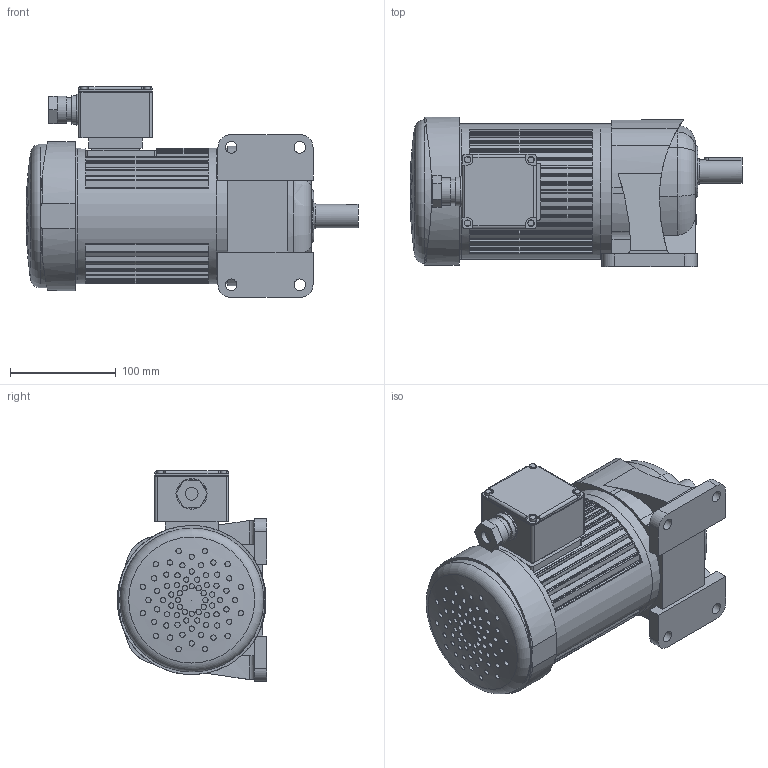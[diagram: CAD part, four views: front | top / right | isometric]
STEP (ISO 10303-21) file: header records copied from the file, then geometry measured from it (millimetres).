
FILE_DESCRIPTION( ( 'STEP AP203' ), ' ' );
FILE_NAME( 'p:/temp/worker_2028/2256_1364/app_43_02016063013312321122622192d056f_000000_00_00_000000/format_1/G3LM-22-5-T040A.stp', '2016-06-30T11:31:32', ( '' ), ( '' ), ' ', 'PARTsolutions', ' ' );
FILE_SCHEMA( ( 'CONFIG_CONTROL_DESIGN' ) );
Length unit declared in the file: millimetre
Products named in the file (7): G3LM-22-5-T040A; _GL22; _SP022C; HI_T040; HI_040M; _A-BOX(aluminum)(T50); _KEY 22
Assembly tree (6 placements, depth 2):
  G3LM-22-5-T040A
    _GL22
    _SP022C
    HI_T040
    HI_040M
    _A-BOX(aluminum)(T50)
    _KEY 22
Bounding box: 314 x 141.5 x 199.5 mm (x, y, z)
Volume: 3944734.3 mm3; surface area: 326179.5 mm2
Topology: 6 solids, 6 shells, 678 faces, 1702 edges, 1150 vertices
Faces by surface type: plane 338, cylinder 325, torus 12, bspline 2, sphere 1
Full cylindrical faces by diameter (mm): 5 x72, 6 x4, 11 x4, 12 x1, 22 x1, 23 x1, 24 x1, 26 x1, 27 x1, 29 x1, 128 x3, 136 x1
Entity records: 24690 total; most frequent: CARTESIAN_POINT 8697, DIRECTION 3402, ORIENTED_EDGE 3040, EDGE_CURVE 1520, AXIS2_PLACEMENT_3D 1331, VERTEX_POINT 1066, EDGE_LOOP 897, FACE_OUTER_BOUND 771
